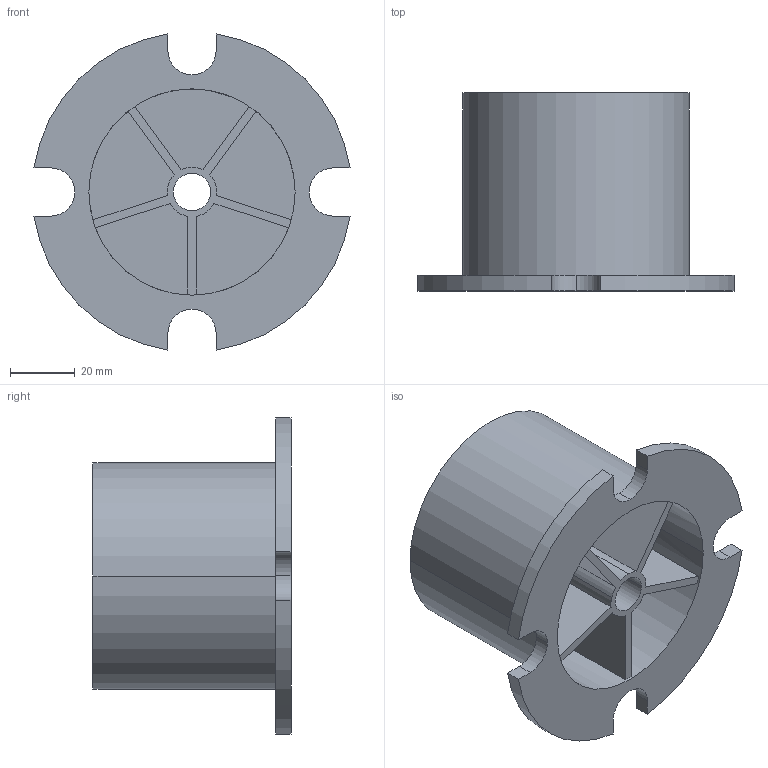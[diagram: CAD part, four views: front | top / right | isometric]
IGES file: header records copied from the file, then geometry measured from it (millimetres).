
Global section: file name: C:\Documents and Settings\Administrator\Desktop\Transfer Temp\fisherpricejeepdriver.igs; native system: AutoDesk Inventor R2.0 ; preprocessor: AutoDesk Inventor Iges Exporter R2.0; author: No Author specified; organization: No Organization specified; date: 20011229.104122; units: inch
Bounding box: 97.3 x 60.96 x 97.3 mm (x, y, z)
Surface area: 58546 mm2 (no closed solid volume)
Topology: 0 solids, 0 shells, 128 faces, 738 edges, 738 vertices
Faces by surface type: revolution 70, bspline 58
